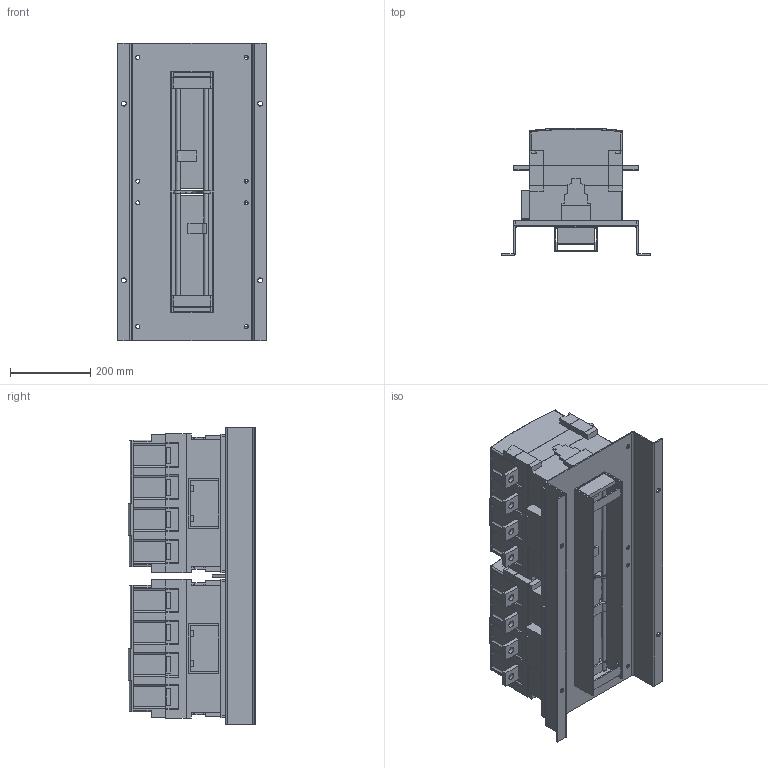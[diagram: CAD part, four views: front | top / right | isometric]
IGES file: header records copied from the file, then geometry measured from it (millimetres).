
Start section: SolidWorks IGES file using analytic representation for surfaces
Global section: file name: Q:\GROUPS\BR_SC_JGS_WA_TECNICO\ENG\Usuarios\Rodrigob\conversão\Montagens com Acessorios\CWM+acessorios\CWM500...800_4P+acessorios\CWM500...800_4P+BLIM CWM800-4P\CWM500...800_4P+BLIM CWM800-4P.IGS; native system: SolidWorks 2012; preprocessor: SolidWorks 2012; author: rodrigob; date: 140328.110658; units: millimetre
Bounding box: 370 x 316.3 x 740 mm (x, y, z)
Surface area: 2286737.7 mm2 (no closed solid volume)
Topology: 0 solids, 0 shells, 1053 faces, 12066 edges, 12066 vertices
Faces by surface type: bspline 776, revolution 277
